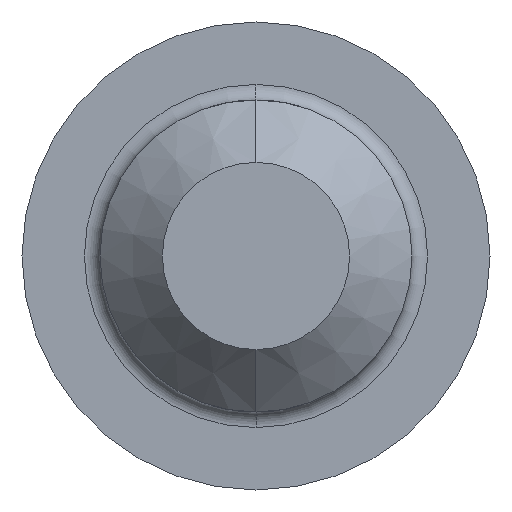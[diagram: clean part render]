
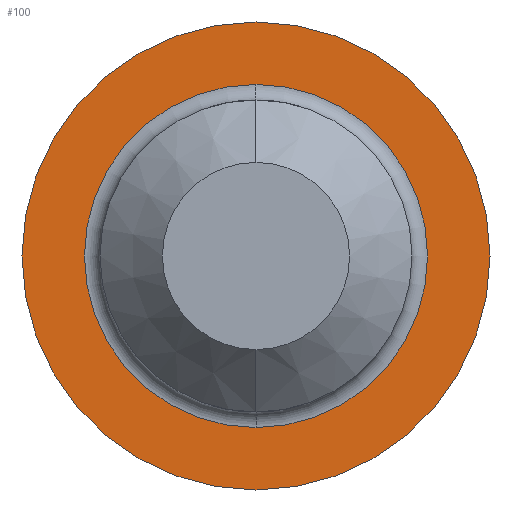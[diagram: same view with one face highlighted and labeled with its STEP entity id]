
A CAD part, left-side view. The second image highlights one B-rep face of the part: STEP entity #100.
In plain terms, the highlighted planar face has unit normal (-1, 0, 0).
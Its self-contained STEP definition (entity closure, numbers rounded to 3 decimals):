
#33 = ORIENTED_EDGE ( 'NONE', *, *, #34, .T. ) ;
#34 = EDGE_CURVE ( 'NONE', #175, #54, #340, .T. ) ;
#35 = ORIENTED_EDGE ( 'NONE', *, *, #98, .T. ) ;
#48 = EDGE_CURVE ( 'NONE', #54, #175, #254, .T. ) ;
#53 = ORIENTED_EDGE ( 'NONE', *, *, #48, .T. ) ;
#54 = VERTEX_POINT ( 'NONE', #409 ) ;
#98 = EDGE_CURVE ( 'NONE', #139, #138, #352, .T. ) ;
#100 = ADVANCED_FACE ( 'NONE', ( #329, #360 ), #361, .F. ) ;
#101 = ORIENTED_EDGE ( 'NONE', *, *, #136, .T. ) ;
#136 = EDGE_CURVE ( 'NONE', #138, #139, #393, .T. ) ;
#138 = VERTEX_POINT ( 'NONE', #386 ) ;
#139 = VERTEX_POINT ( 'NONE', #388 ) ;
#150 = EDGE_LOOP ( 'NONE', ( #35, #101 ) ) ;
#155 = EDGE_LOOP ( 'NONE', ( #53, #33 ) ) ;
#175 = VERTEX_POINT ( 'NONE', #520 ) ;
#235 = CARTESIAN_POINT ( 'NONE',  ( 0., 0., 0. ) ) ;
#237 = DIRECTION ( 'NONE',  ( 0., 0., 1. ) ) ;
#250 = DIRECTION ( 'NONE',  ( 0., 0., 1. ) ) ;
#251 = DIRECTION ( 'NONE',  ( -1., 0., 0. ) ) ;
#252 = CARTESIAN_POINT ( 'NONE',  ( 0., 0., 0. ) ) ;
#253 = AXIS2_PLACEMENT_3D ( 'NONE', #252, #251, #250 ) ;
#254 = CIRCLE ( 'NONE', #253, 4.5 ) ;
#294 = DIRECTION ( 'NONE',  ( 0., 0., -1. ) ) ;
#307 = AXIS2_PLACEMENT_3D ( 'NONE', #359, #358, #294 ) ;
#319 = AXIS2_PLACEMENT_3D ( 'NONE', #235, #399, #237 ) ;
#326 = DIRECTION ( 'NONE',  ( 0., 0., -1. ) ) ;
#327 = DIRECTION ( 'NONE',  ( 1., 0., 0. ) ) ;
#329 = FACE_BOUND ( 'NONE', #150, .T. ) ;
#340 = CIRCLE ( 'NONE', #319, 4.5 ) ;
#347 = AXIS2_PLACEMENT_3D ( 'NONE', #353, #327, #326 ) ;
#352 = CIRCLE ( 'NONE', #347, 3.3 ) ;
#353 = CARTESIAN_POINT ( 'NONE',  ( 0., 0., 0. ) ) ;
#358 = DIRECTION ( 'NONE',  ( 1., 0., 0. ) ) ;
#359 = CARTESIAN_POINT ( 'NONE',  ( 0., 4.5, 0. ) ) ;
#360 = FACE_OUTER_BOUND ( 'NONE', #155, .T. ) ;
#361 = PLANE ( 'NONE',  #307 ) ;
#377 = DIRECTION ( 'NONE',  ( 0., 0., -1. ) ) ;
#378 = DIRECTION ( 'NONE',  ( 1., 0., 0. ) ) ;
#379 = AXIS2_PLACEMENT_3D ( 'NONE', #384, #378, #377 ) ;
#384 = CARTESIAN_POINT ( 'NONE',  ( 0., 0., 0. ) ) ;
#386 = CARTESIAN_POINT ( 'NONE',  ( 0., 0., 3.3 ) ) ;
#388 = CARTESIAN_POINT ( 'NONE',  ( 0., 0., -3.3 ) ) ;
#393 = CIRCLE ( 'NONE', #379, 3.3 ) ;
#399 = DIRECTION ( 'NONE',  ( -1., 0., 0. ) ) ;
#409 = CARTESIAN_POINT ( 'NONE',  ( 0., 0., 4.5 ) ) ;
#520 = CARTESIAN_POINT ( 'NONE',  ( 0., 0., -4.5 ) ) ;
